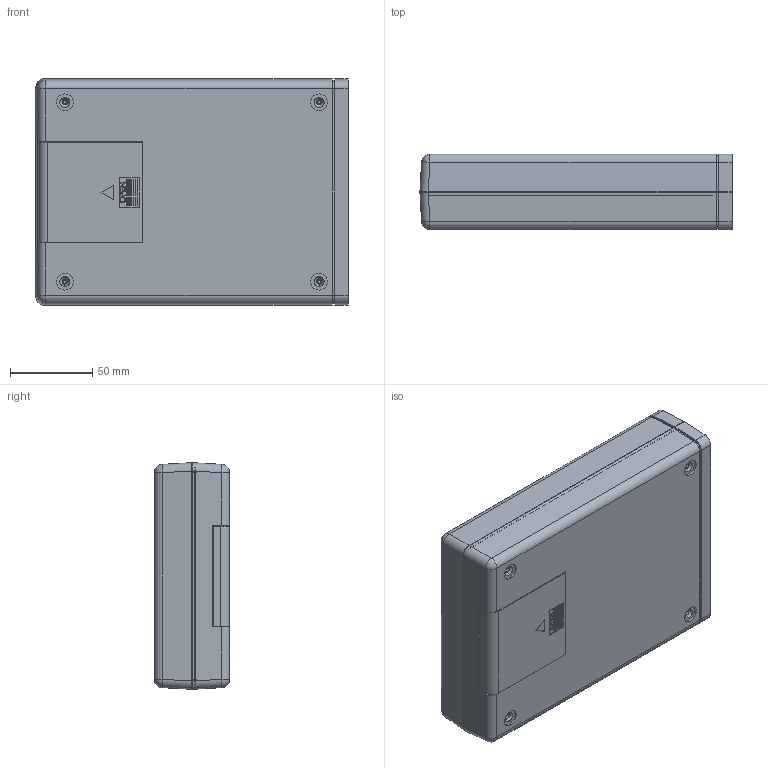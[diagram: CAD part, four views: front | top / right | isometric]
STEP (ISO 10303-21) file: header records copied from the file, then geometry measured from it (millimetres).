
FILE_DESCRIPTION (( 'STEP AP214' ), '1' );
FILE_NAME ('UOCL-118.STEP', '2020-05-22T19:52:42', ( 'Rudy' ), ( '' ), 'SwSTEP 2.0', 'SolidWorks 2014', '' );
FILE_SCHEMA (( 'AUTOMOTIVE_DESIGN' ));
Length unit declared in the file: inch
Products named in the file (5): UOCL-S; door; UOCL-top; UOCL-bottom VER III; UOCL-118
Assembly tree (4 placements, depth 2):
  UOCL-118
    UOCL-bottom VER III
    UOCL-top
    door
    UOCL-S
Bounding box: 189.84 x 45.72 x 137.79 mm (x, y, z)
Volume: 257848.4 mm3; surface area: 187413.6 mm2
Topology: 4 solids, 4 shells, 1423 faces, 3806 edges, 2422 vertices
Faces by surface type: plane 653, cylinder 502, torus 138, bspline 82, cone 44, sphere 4
Entity records: 46696 total; most frequent: CARTESIAN_POINT 11031, ORIENTED_EDGE 7604, DIRECTION 7348, EDGE_CURVE 3802, AXIS2_PLACEMENT_3D 2505, VERTEX_POINT 2422, VECTOR 2338, LINE 2338
